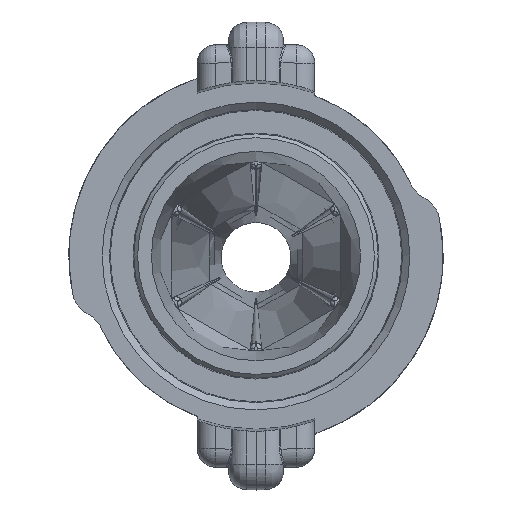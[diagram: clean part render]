
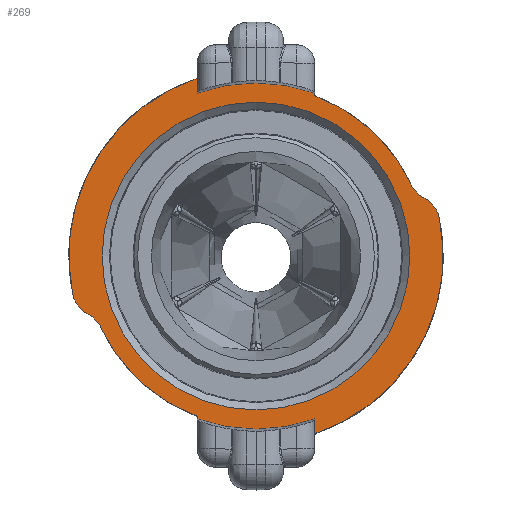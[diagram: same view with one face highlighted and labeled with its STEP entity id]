
A CAD part, top view. The second image highlights one B-rep face of the part: STEP entity #269.
In plain terms, the highlighted planar face has unit normal (0, 0, 1).
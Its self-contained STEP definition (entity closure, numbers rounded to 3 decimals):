
#269=ADVANCED_FACE('',(#1581,#1582),#1583,.T.);
#1581=FACE_BOUND('',#9997,.T.);
#1582=FACE_OUTER_BOUND('',#9998,.T.);
#1583=PLANE('',#9999);
#9997=EDGE_LOOP('',(#23619));
#9998=EDGE_LOOP('',(#23620,#23621,#23622,#23623,#23624,#23625,#23626,#23627,#23628,#23629,#23630,#23631,#23632,#23633,#23634,#23635,#23636,#23637));
#9999=AXIS2_PLACEMENT_3D('',#23638,#23639,#23640);
#23619=ORIENTED_EDGE('',*,*,#33043,.T.);
#23620=ORIENTED_EDGE('',*,*,#33044,.T.);
#23621=ORIENTED_EDGE('',*,*,#32501,.T.);
#23622=ORIENTED_EDGE('',*,*,#33045,.T.);
#23623=ORIENTED_EDGE('',*,*,#33046,.T.);
#23624=ORIENTED_EDGE('',*,*,#33047,.T.);
#23625=ORIENTED_EDGE('',*,*,#32490,.T.);
#23626=ORIENTED_EDGE('',*,*,#32947,.T.);
#23627=ORIENTED_EDGE('',*,*,#33048,.F.);
#23628=ORIENTED_EDGE('',*,*,#33049,.T.);
#23629=ORIENTED_EDGE('',*,*,#32655,.T.);
#23630=ORIENTED_EDGE('',*,*,#32970,.T.);
#23631=ORIENTED_EDGE('',*,*,#33050,.T.);
#23632=ORIENTED_EDGE('',*,*,#33051,.T.);
#23633=ORIENTED_EDGE('',*,*,#33052,.T.);
#23634=ORIENTED_EDGE('',*,*,#33053,.T.);
#23635=ORIENTED_EDGE('',*,*,#32478,.T.);
#23636=ORIENTED_EDGE('',*,*,#33054,.T.);
#23637=ORIENTED_EDGE('',*,*,#32641,.T.);
#23638=CARTESIAN_POINT('',(0.0,0.0,12.0));
#23639=DIRECTION('',(0.0,0.0,1.0));
#23640=DIRECTION('',(1.0,0.0,0.0));
#32478=EDGE_CURVE('',#35364,#35365,#35366,.F.);
#32490=EDGE_CURVE('',#35388,#35386,#35389,.T.);
#32501=EDGE_CURVE('',#35410,#35408,#35411,.F.);
#32641=EDGE_CURVE('',#35658,#35659,#35660,.T.);
#32655=EDGE_CURVE('',#35686,#35684,#35687,.T.);
#32947=EDGE_CURVE('',#35386,#36192,#36193,.F.);
#32970=EDGE_CURVE('',#35684,#36224,#36226,.F.);
#33043=EDGE_CURVE('',#36320,#36320,#36321,.F.);
#33044=EDGE_CURVE('',#35659,#35410,#36322,.T.);
#33045=EDGE_CURVE('',#35408,#36323,#36324,.T.);
#33046=EDGE_CURVE('',#36323,#36325,#36326,.T.);
#33047=EDGE_CURVE('',#36325,#35388,#36327,.F.);
#33048=EDGE_CURVE('',#36328,#36192,#36329,.T.);
#33049=EDGE_CURVE('',#36328,#35686,#36330,.T.);
#33050=EDGE_CURVE('',#36224,#36331,#36332,.T.);
#33051=EDGE_CURVE('',#36331,#36333,#36334,.T.);
#33052=EDGE_CURVE('',#36333,#36335,#36336,.F.);
#33053=EDGE_CURVE('',#36335,#35364,#36337,.T.);
#33054=EDGE_CURVE('',#35365,#35658,#36338,.T.);
#35364=VERTEX_POINT('',#40486);
#35365=VERTEX_POINT('',#40487);
#35366=CIRCLE('',#40488,0.5);
#35386=VERTEX_POINT('',#40566);
#35388=VERTEX_POINT('',#40569);
#35389=CIRCLE('',#40570,46.5);
#35408=VERTEX_POINT('',#40640);
#35410=VERTEX_POINT('',#40643);
#35411=CIRCLE('',#40644,0.5);
#35658=VERTEX_POINT('',#41285);
#35659=VERTEX_POINT('',#41286);
#35660=CIRCLE('',#41287,47.191);
#35684=VERTEX_POINT('',#41376);
#35686=VERTEX_POINT('',#41379);
#35687=LINE('',#41380,#41381);
#36192=VERTEX_POINT('',#43769);
#36193=CIRCLE('',#43770,0.5);
#36224=VERTEX_POINT('',#43832);
#36226=CIRCLE('',#43835,0.5);
#36320=VERTEX_POINT('',#44199);
#36321=CIRCLE('',#44200,41.931);
#36322=LINE('',#44201,#44202);
#36323=VERTEX_POINT('',#44203);
#36324=CIRCLE('',#44204,51.0);
#36325=VERTEX_POINT('',#44205);
#36326=CIRCLE('',#44206,8.0);
#36327=CIRCLE('',#44207,8.0);
#36328=VERTEX_POINT('',#44208);
#36329=LINE('',#44209,#44210);
#36330=CIRCLE('',#44211,47.191);
#36331=VERTEX_POINT('',#44212);
#36332=CIRCLE('',#44213,51.0);
#36333=VERTEX_POINT('',#44214);
#36334=CIRCLE('',#44215,8.0);
#36335=VERTEX_POINT('',#44216);
#36336=CIRCLE('',#44217,8.0);
#36337=CIRCLE('',#44218,46.5);
#36338=LINE('',#44219,#44220);
#40486=CARTESIAN_POINT('',(-16.324,-43.54,12.0));
#40487=CARTESIAN_POINT('',(-16.0,-44.009,12.0));
#40488=AXIS2_PLACEMENT_3D('',#57160,#57161,#57162);
#40566=CARTESIAN_POINT('',(16.324,43.54,12.0));
#40569=CARTESIAN_POINT('',(42.154,19.628,12.0));
#40570=AXIS2_PLACEMENT_3D('',#57179,#57180,#57181);
#40640=CARTESIAN_POINT('',(16.34,-48.312,12.0));
#40643=CARTESIAN_POINT('',(16.0,-48.785,12.0));
#40644=AXIS2_PLACEMENT_3D('',#57191,#57192,#57193);
#41285=CARTESIAN_POINT('',(-16.0,-44.396,12.0));
#41286=CARTESIAN_POINT('',(16.0,-44.396,12.0));
#41287=AXIS2_PLACEMENT_3D('',#57439,#57440,#57441);
#41376=CARTESIAN_POINT('',(-16.0,48.785,12.0));
#41379=CARTESIAN_POINT('',(-16.0,44.396,12.0));
#41380=CARTESIAN_POINT('',(-16.0,47.75,12.0));
#41381=VECTOR('',#57456,1.0);
#43769=CARTESIAN_POINT('',(16.0,44.009,12.0));
#43770=AXIS2_PLACEMENT_3D('',#57790,#57791,#57792);
#43832=CARTESIAN_POINT('',(-16.34,48.312,12.0));
#43835=AXIS2_PLACEMENT_3D('',#57831,#57832,#57833);
#44199=CARTESIAN_POINT('',(41.931,0.,12.0));
#44200=AXIS2_PLACEMENT_3D('',#57942,#57943,#57944);
#44201=CARTESIAN_POINT('',(16.0,47.75,12.0));
#44202=VECTOR('',#57945,1.0);
#44203=CARTESIAN_POINT('',(49.927,10.405,12.0));
#44204=AXIS2_PLACEMENT_3D('',#57946,#57947,#57948);
#44205=CARTESIAN_POINT('',(45.751,15.889,12.0));
#44206=AXIS2_PLACEMENT_3D('',#57949,#57950,#57951);
#44207=AXIS2_PLACEMENT_3D('',#57952,#57953,#57954);
#44208=CARTESIAN_POINT('',(16.0,44.396,12.0));
#44209=CARTESIAN_POINT('',(16.0,47.75,12.0));
#44210=VECTOR('',#57955,1.0);
#44211=AXIS2_PLACEMENT_3D('',#57956,#57957,#57958);
#44212=CARTESIAN_POINT('',(-49.927,-10.405,12.0));
#44213=AXIS2_PLACEMENT_3D('',#57959,#57960,#57961);
#44214=CARTESIAN_POINT('',(-45.751,-15.889,12.0));
#44215=AXIS2_PLACEMENT_3D('',#57962,#57963,#57964);
#44216=CARTESIAN_POINT('',(-42.154,-19.628,12.0));
#44217=AXIS2_PLACEMENT_3D('',#57965,#57966,#57967);
#44218=AXIS2_PLACEMENT_3D('',#57968,#57969,#57970);
#44219=CARTESIAN_POINT('',(-16.0,47.75,12.0));
#44220=VECTOR('',#57971,1.0);
#57160=CARTESIAN_POINT('',(-16.5,-44.009,12.0));
#57161=DIRECTION('',(0.0,0.0,1.0));
#57162=DIRECTION('',(1.0,0.0,0.0));
#57179=CARTESIAN_POINT('',(0.0,0.0,12.0));
#57180=DIRECTION('',(0.0,0.0,1.0));
#57181=DIRECTION('',(1.0,0.0,0.0));
#57191=CARTESIAN_POINT('',(16.5,-48.785,12.0));
#57192=DIRECTION('',(0.0,0.0,1.0));
#57193=DIRECTION('',(1.0,0.0,0.0));
#57439=CARTESIAN_POINT('',(0.0,0.0,12.0));
#57440=DIRECTION('',(0.0,0.0,1.0));
#57441=DIRECTION('',(1.0,0.0,0.0));
#57456=DIRECTION('',(0.0,1.0,0.0));
#57790=CARTESIAN_POINT('',(16.5,44.009,12.0));
#57791=DIRECTION('',(0.0,0.0,1.0));
#57792=DIRECTION('',(1.0,0.0,0.0));
#57831=CARTESIAN_POINT('',(-16.5,48.785,12.0));
#57832=DIRECTION('',(0.0,0.0,1.0));
#57833=DIRECTION('',(1.0,0.0,0.0));
#57942=CARTESIAN_POINT('',(0.0,0.0,12.0));
#57943=DIRECTION('',(0.0,0.0,1.0));
#57944=DIRECTION('',(1.0,0.0,0.0));
#57945=DIRECTION('',(0.0,-1.0,0.0));
#57946=CARTESIAN_POINT('',(0.0,0.0,12.0));
#57947=DIRECTION('',(0.0,0.0,1.0));
#57948=DIRECTION('',(-1.0,0.,0.0));
#57949=CARTESIAN_POINT('',(42.096,8.773,12.0));
#57950=DIRECTION('',(0.0,0.0,1.0));
#57951=DIRECTION('',(1.0,0.0,0.0));
#57952=CARTESIAN_POINT('',(49.407,23.005,12.0));
#57953=DIRECTION('',(0.0,0.0,1.0));
#57954=DIRECTION('',(1.0,0.0,0.0));
#57955=DIRECTION('',(0.0,-1.0,0.0));
#57956=CARTESIAN_POINT('',(0.0,0.0,12.0));
#57957=DIRECTION('',(0.0,0.0,1.0));
#57958=DIRECTION('',(1.0,0.0,0.0));
#57959=CARTESIAN_POINT('',(0.0,0.0,12.0));
#57960=DIRECTION('',(0.0,0.0,1.0));
#57961=DIRECTION('',(1.0,0.0,0.0));
#57962=CARTESIAN_POINT('',(-42.096,-8.773,12.0));
#57963=DIRECTION('',(0.0,0.0,1.0));
#57964=DIRECTION('',(1.0,0.0,0.0));
#57965=CARTESIAN_POINT('',(-49.407,-23.005,12.0));
#57966=DIRECTION('',(0.0,0.0,1.0));
#57967=DIRECTION('',(1.0,0.0,0.0));
#57968=CARTESIAN_POINT('',(0.0,0.0,12.0));
#57969=DIRECTION('',(0.0,0.0,1.0));
#57970=DIRECTION('',(1.0,0.0,0.0));
#57971=DIRECTION('',(0.0,-1.0,0.0));
